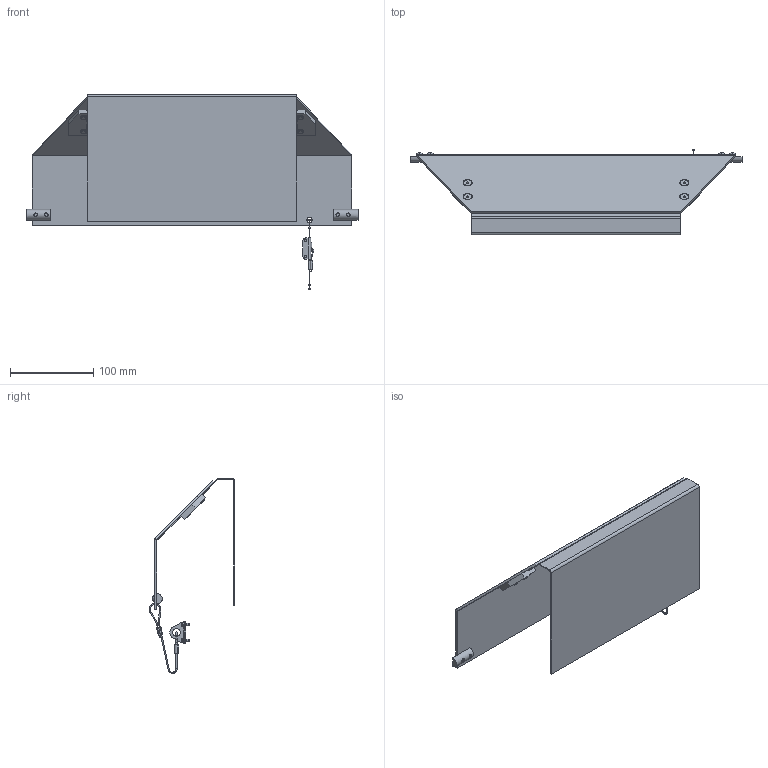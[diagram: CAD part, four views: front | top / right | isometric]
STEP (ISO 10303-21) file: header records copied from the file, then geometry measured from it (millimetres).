
FILE_DESCRIPTION((''),'2;1');
FILE_NAME('300992M_ASM','2016-02-16T',('jenni.wallner'),(''),'PRO/ENGINEER BY PARAMETRIC TECHNOLOGY CORPORATION, 2012420','PRO/ENGINEER BY PARAMETRIC TECHNOLOGY CORPORATION, 2012420','');
FILE_SCHEMA(('CONFIG_CONTROL_DESIGN'));
Length unit declared in the file: inch
Products named in the file (11): 300842M; 300832M; 300774M; 300741M; 910408M; 930510M; 807-1086; 804-506; 807-1085; 920306M; 300992M_ASM
Assembly tree (20 placements, depth 2):
  300992M_ASM
    300842M
    300832M
    300774M  x2
    300741M  x2
    910408M  x4
    930510M  x4
    807-1086
    804-506
    807-1085  x2
    920306M  x2
Bounding box: 399.75 x 103.44 x 234.74 mm (x, y, z)
Volume: 270193.1 mm3; surface area: 283255 mm2
Topology: 20 solids, 28 shells, 400 faces, 944 edges, 596 vertices
Faces by surface type: plane 179, cylinder 141, cone 56, torus 14, bspline 10
Entity records: 7320 total; most frequent: CARTESIAN_POINT 1446, DIRECTION 1278, ORIENTED_EDGE 1080, EDGE_CURVE 548, AXIS2_PLACEMENT_3D 490, VERTEX_POINT 342, VECTOR 298, LINE 298
